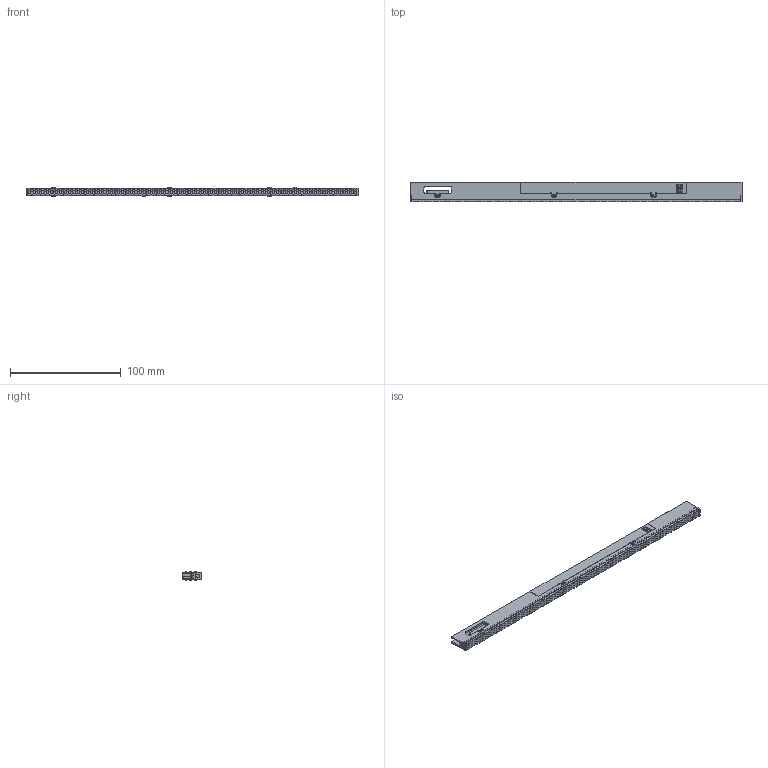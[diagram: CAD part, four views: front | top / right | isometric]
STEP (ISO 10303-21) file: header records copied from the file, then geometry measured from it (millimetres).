
FILE_DESCRIPTION (( 'STEP AP203' ), '1' );
FILE_NAME ('BD0006 Slit.STEP', '2025-08-02T09:27:24', ( '' ), ( '' ), 'SwSTEP 2.0', 'SolidWorks 2020', '' );
FILE_SCHEMA (( 'CONFIG_CONTROL_DESIGN' ));
Length unit declared in the file: millimetre
Products named in the file (10): kc-0006-0028.stp; KC-0006-0023.stp; BD0006 Slit; M2_3-01.stp; KC-0006-0024.stp; KC-0006-0004.stp; M2_5-01.stp; KC-0006-0025.stp; KC-0006-0032.stp; KC-0006-0026.stp
Assembly tree (16 placements, depth 2):
  BD0006 Slit
    KC-0006-0026.stp
    KC-0006-0023.stp
    KC-0006-0024.stp
    KC-0006-0004.stp  x4
    kc-0006-0028.stp
    KC-0006-0032.stp  x2
    KC-0006-0025.stp
    M2_3-01.stp  x2
    M2_5-01.stp  x3
Bounding box: 300 x 17.7 x 8.79 mm (x, y, z)
Volume: 25771 mm3; surface area: 40657.9 mm2
Topology: 16 solids, 17 shells, 4006 faces, 10235 edges, 6550 vertices
Faces by surface type: plane 3126, cylinder 623, cone 133, bspline 78, sphere 24, torus 22
Entity records: 112014 total; most frequent: CARTESIAN_POINT 24739, ORIENTED_EDGE 18564, DIRECTION 16259, EDGE_CURVE 9282, VECTOR 7885, LINE 7885, VERTEX_POINT 5950, AXIS2_PLACEMENT_3D 4187
